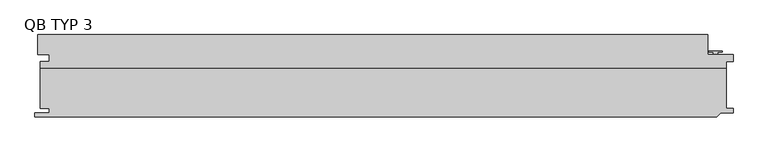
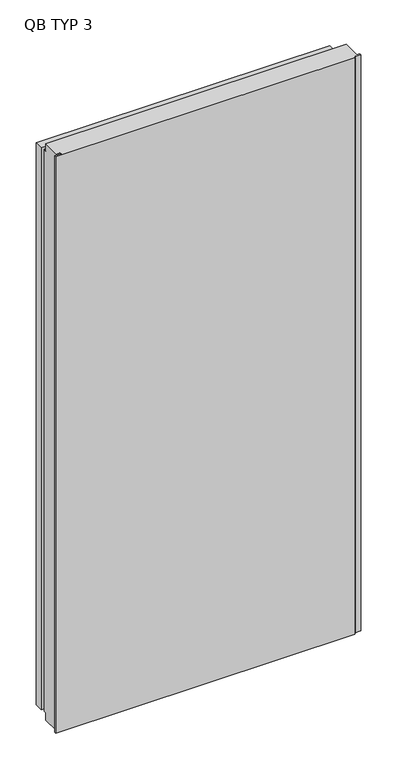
"""IFC4 building model written with IfcOpenShell, lengths in millimetres: plate geometry, TR_C_V_QBISS_Panel : QB TYP 3."""

from ifc_helpers import new_model, si_unit, frame, origin, place, context, project, spatial, polyline, outline, extrude, faceted_brep, source, transform, mapped, element, save


def qb_typ_3_7d6ad6a2(model_context):
    return source(origin(), model_context, "Body", "SolidModel", [
        faceted_brep([(-499.9999997, -108.0, 2014.2000003), (-487.0, -108.0, 2014.2000003), (-487.0, -114.0, 2014.2000003), (-508.0, -114.0, 2014.2000003), (-508.0, -120.0, 2014.2000003), (485.9999998, -120.0, 2014.2000003), (492.0, -114.0, 2014.2000003), (510.0, -114.0, 2014.2000003), (510.0, -108.0, 2014.2000003), (500.0, -108.0, 2014.2000003), (500.0, -49.0, 2014.2000003), (-499.9999997, -49.0, 2014.2000003), (500.0, -108.0, -12.4), (510.0, -108.0, -12.4), (510.0, -114.0, -12.4), (492.0, -114.0, -12.4), (485.9999998, -120.0, -12.4), (-508.0, -120.0, -12.4), (-508.0, -114.0, -12.4), (-487.0, -114.0, -12.4), (-487.0, -108.0, -12.4), (-499.9999997, -108.0, -12.4), (-499.9999997, -49.0, -12.4), (500.0, -49.0, -12.4), (-499.9999997, -49.0, 12.7), (500.0, -49.0, 12.7), (-499.9999997, -39.0, 12.7), (-487.0, -39.0, 12.7), (-487.0, -29.0, 12.7), (-504.0, -29.0, 12.7), (-504.0, 0.0, 12.7), (473.0, 0.0, 12.7), (473.0, -29.0, 12.7), (510.0, -29.0, 12.7), (510.0, -39.0, 12.7), (500.0, -39.0, 12.7), (500.0, -39.0, 1989.1000003), (500.0, -49.0, 1989.1000003), (510.0, -39.0, 1989.1000003), (510.0, -29.0, 1989.1000003), (473.0, -29.0, 1989.1000003), (473.0, 0.0, 1989.1000003), (-504.0, 0.0, 1989.1000003), (-504.0, -29.0, 1989.1000003), (-487.0, -29.0, 1989.1000003), (-487.0, -39.0, 1989.1000003), (-499.9999997, -39.0, 1989.1000003), (-499.9999997, -49.0, 1989.1000003)], [[[0, 1, 2, 3, 4, 5, 6, 7, 8, 9, 10, 11]], [[12, 13, 14, 15, 16, 17, 18, 19, 20, 21, 22, 23]], [[24, 25, 23, 22]], [[25, 24, 26, 27, 28, 29, 30, 31, 32, 33, 34, 35]], [[1, 0, 21, 20]], [[2, 1, 20, 19]], [[3, 2, 19, 18]], [[4, 3, 18, 17]], [[5, 4, 17, 16]], [[6, 5, 16, 15]], [[7, 6, 15, 14]], [[8, 7, 14, 13]], [[9, 8, 13, 12]], [[9, 12, 23, 25, 35, 36, 37, 10]], [[35, 34, 38, 36]], [[34, 33, 39, 38]], [[33, 32, 40, 39]], [[32, 31, 41, 40]], [[31, 30, 42, 41]], [[30, 29, 43, 42]], [[29, 28, 44, 43]], [[28, 27, 45, 44]], [[27, 26, 46, 45]], [[21, 0, 11, 47, 46, 26, 24, 22]], [[37, 47, 11, 10]], [[47, 37, 36, 38, 39, 40, 41, 42, 43, 44, 45, 46]]]),
        extrude(outline(polyline([(494.5, -24.0), (494.5, -25.4998317), (487.7023593, -25.4998317), (487.7023593, -27.9998293), (488.5023593, -27.9998293), (488.5023593, -28.7998428), (480.5023028, -28.7998428), (480.5023028, -27.9998293), (481.3023028, -27.9998293), (481.3023028, -25.4998317), (474.5, -25.4998317), (474.5, -24.0), (494.5, -24.0)])), frame((0.0, 0.0, 12.5), z_axis=(0.0, 0.0, 1.0), x_axis=(1.0, 0.0, 0.0)), (0.0, 0.0, 1.0), 1976.8000003),
    ])


if __name__ == "__main__":
    model = new_model("IFC4")
    model_context = context("Model", 3, world=origin())
    ifc_project = project(units=[si_unit("LENGTHUNIT", "METRE", prefix="MILLI")], contexts=[model_context])
    site = spatial("IfcSite", under=ifc_project)
    building = spatial("IfcBuilding", under=site)
    placement = place(None, origin())
    qb_typ_3_shape = qb_typ_3_7d6ad6a2(model_context)
    element("IfcPlate", 1, ObjectType="TR_C_V_QBISS_Panel : QB TYP 3", at=placement, inside=building, context=model_context, shape_type="MappedRepresentation", body=[
        mapped(qb_typ_3_shape, transform((0.0, 0.0, 0.0), x_axis=(1.0, 0.0, 0.0), y_axis=(0.0, 1.0, 0.0), z_axis=(0.0, 0.0, 1.0))),
    ])
    save(model, "model.ifc")
